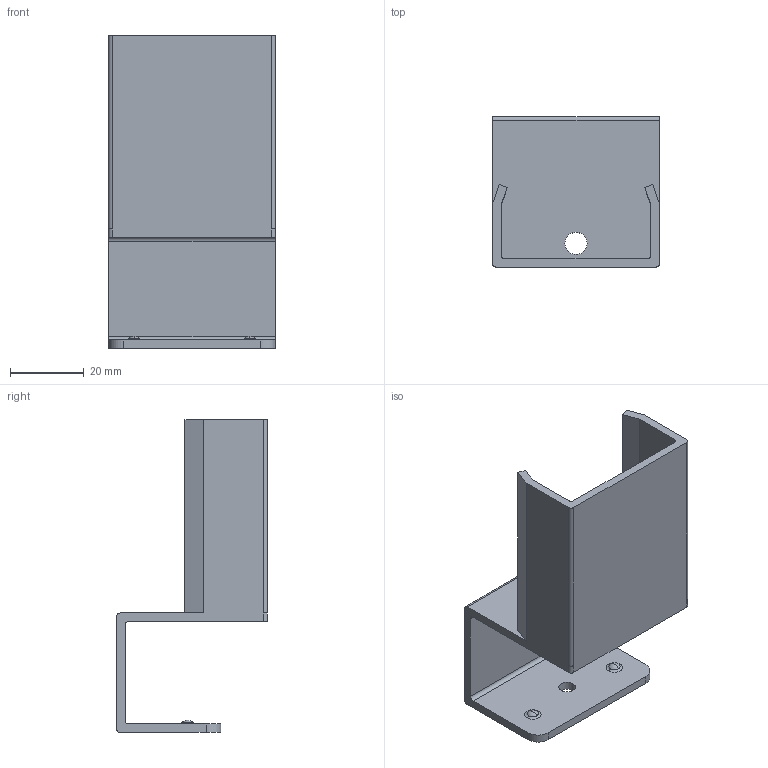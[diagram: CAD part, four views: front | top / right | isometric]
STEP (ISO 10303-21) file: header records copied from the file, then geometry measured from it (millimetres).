
FILE_DESCRIPTION (( 'STEP AP203' ), '1' );
FILE_NAME ('015.200.001.STEP', '2016-10-24T08:37:06', ( '' ), ( '' ), 'SwSTEP 2.0', 'SolidWorks 2016', '' );
FILE_SCHEMA (( 'CONFIG_CONTROL_DESIGN' ));
Length unit declared in the file: millimetre
Products named in the file (1): 015.200.001
Bounding box: 45.1 x 40.8 x 84.6 mm (x, y, z)
Volume: 20129.3 mm3; surface area: 18305 mm2
Topology: 1 solids, 1 shells, 52 faces, 142 edges, 96 vertices
Faces by surface type: plane 20, cylinder 16, torus 8, sphere 8
Entity records: 1773 total; most frequent: DIRECTION 318, CARTESIAN_POINT 291, ORIENTED_EDGE 284, EDGE_CURVE 142, AXIS2_PLACEMENT_3D 123, VERTEX_POINT 96, VECTOR 72, LINE 72
